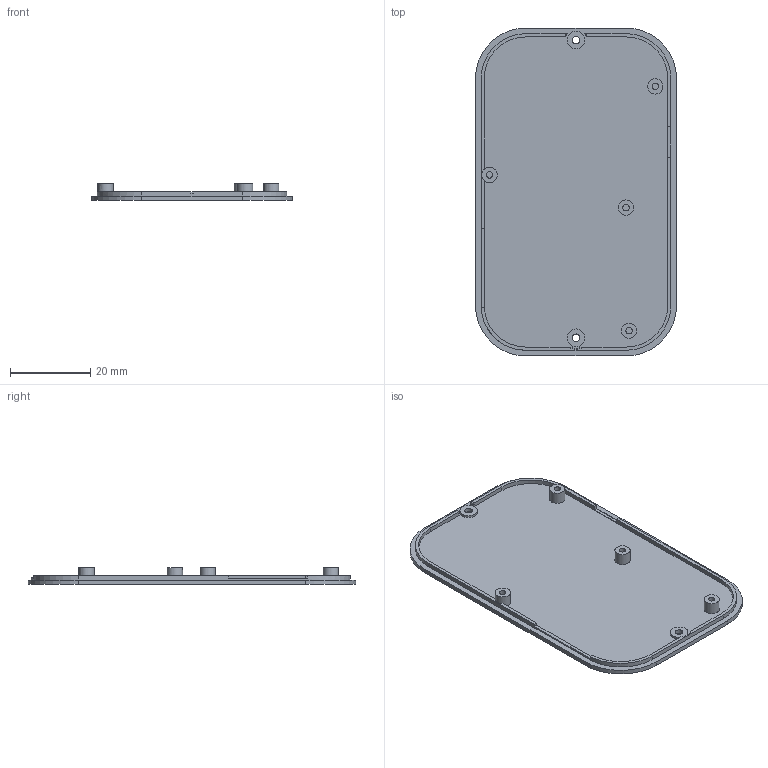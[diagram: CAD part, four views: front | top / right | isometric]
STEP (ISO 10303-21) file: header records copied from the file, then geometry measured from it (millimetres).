
FILE_DESCRIPTION(('FreeCAD Model'),'2;1');
FILE_NAME('Open CASCADE Shape Model','2026-09-23T14:25:23',('FreeCAD'),( 'FreeCAD'),'Open CASCADE STEP processor 7.8','FreeCAD','Unknown');
FILE_SCHEMA(('AUTOMOTIVE_DESIGN { 1 0 10303 214 1 1 1 1 }'));
Length unit declared in the file: millimetre
Products named in the file (1): Open CASCADE STEP translator 7.8 2
Bounding box: 50 x 81.5 x 4.2 mm (x, y, z)
Volume: 4627.4 mm3; surface area: 8840.4 mm2
Topology: 1 solids, 1 shells, 74 faces, 180 edges, 120 vertices
Faces by surface type: plane 42, cylinder 32
Full cylindrical faces by diameter (mm): 1.6 x4, 1.9 x2, 3.8 x6, 4.4 x2
Entity records: 2210 total; most frequent: DIRECTION 398, CARTESIAN_POINT 375, ORIENTED_EDGE 360, EDGE_CURVE 180, AXIS2_PLACEMENT_3D 143, VERTEX_POINT 120, LINE 112, VECTOR 112
